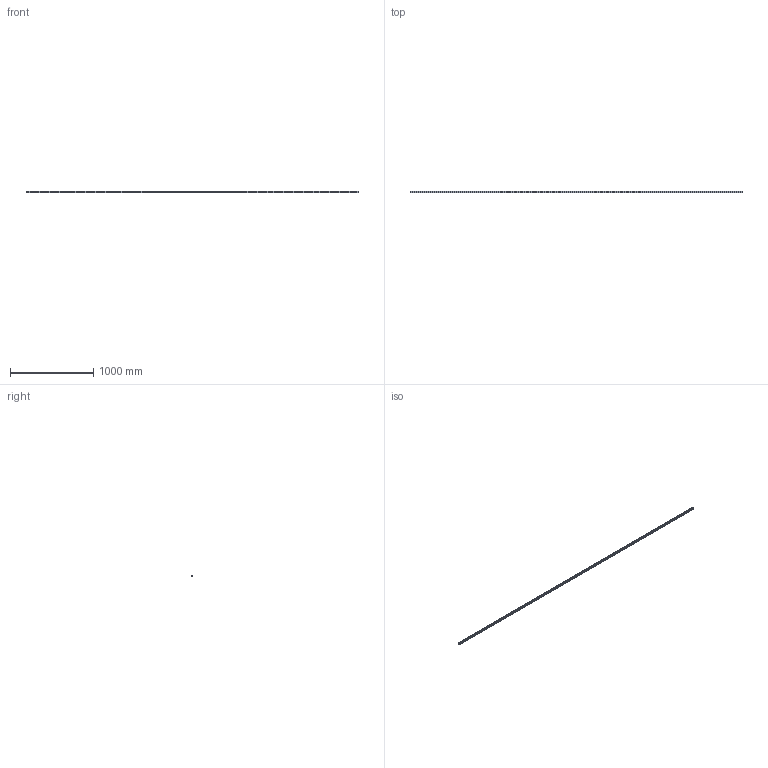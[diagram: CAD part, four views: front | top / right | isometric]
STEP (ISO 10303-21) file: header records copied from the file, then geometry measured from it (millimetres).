
FILE_DESCRIPTION(('FreeCAD Model'),'2;1');
FILE_NAME('Open CASCADE Shape Model','2024-12-05T11:31:30',('Author'),( ''),'Open CASCADE STEP processor 7.6','FreeCAD','Unknown');
FILE_SCHEMA(('AUTOMOTIVE_DESIGN { 1 0 10303 214 1 1 1 1 }'));
Length unit declared in the file: millimetre
Products named in the file (1): ER-25-R-4000-20-20
Bounding box: 4000 x 18 x 23 mm (x, y, z)
Volume: 1449936.1 mm3; surface area: 360176.1 mm2
Topology: 1 solids, 1 shells, 432 faces, 1290 edges, 860 vertices
Faces by surface type: plane 294, cylinder 138
Full cylindrical faces by diameter (mm): 7 x67, 11 x67
Entity records: 15182 total; most frequent: DIRECTION 2834, CARTESIAN_POINT 2717, ORIENTED_EDGE 2580, EDGE_CURVE 1290, AXIS2_PLACEMENT_3D 1245, VERTEX_POINT 860, FACE_BOUND 566, EDGE_LOOP 566
